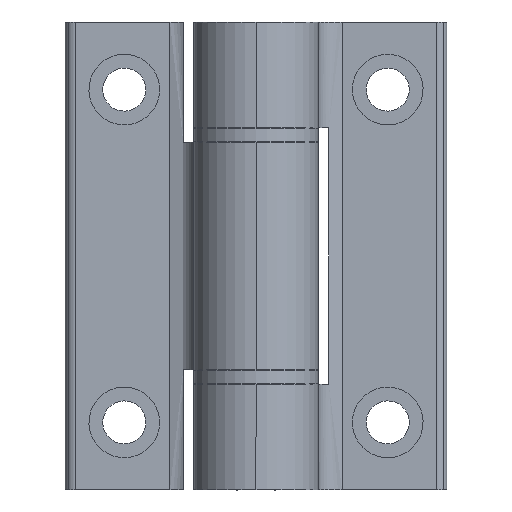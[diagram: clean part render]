
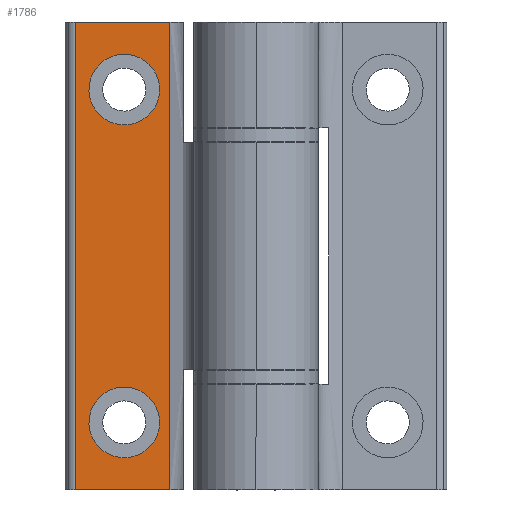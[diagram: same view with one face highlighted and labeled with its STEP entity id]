
A CAD part, front view. The second image highlights one B-rep face of the part: STEP entity #1786.
In plain terms, the highlighted planar face has unit normal (0, -1, 0).
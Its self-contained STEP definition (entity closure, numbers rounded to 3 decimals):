
#414=CARTESIAN_POINT('',(-11.248,4.75,-28.875));
#415=VERTEX_POINT('',#414);
#424=CARTESIAN_POINT('',(-4.65,4.75,-24.0));
#425=VERTEX_POINT('',#424);
#426=CARTESIAN_POINT('',(-9.75,4.75,-24.0));
#427=DIRECTION('',(0.0,1.0,0.0));
#428=DIRECTION('',(1.0,0.0,0.0));
#429=AXIS2_PLACEMENT_3D('',#426,#427,#428);
#430=CIRCLE('',#429,5.1);
#431=EDGE_CURVE('',#425,#415,#430,.T.);
#433=CARTESIAN_POINT('',(-8.252,4.75,-19.125));
#434=VERTEX_POINT('',#433);
#435=CARTESIAN_POINT('',(-9.75,4.75,-24.0));
#436=DIRECTION('',(0.0,1.0,0.0));
#437=DIRECTION('',(1.0,0.0,0.0));
#438=AXIS2_PLACEMENT_3D('',#435,#436,#437);
#439=CIRCLE('',#438,5.1);
#440=EDGE_CURVE('',#434,#425,#439,.T.);
#558=CARTESIAN_POINT('',(-11.248,4.75,19.125));
#559=VERTEX_POINT('',#558);
#568=CARTESIAN_POINT('',(-4.65,4.75,24.));
#569=VERTEX_POINT('',#568);
#570=CARTESIAN_POINT('',(-9.75,4.75,24.));
#571=DIRECTION('',(0.0,1.0,0.0));
#572=DIRECTION('',(1.0,0.0,0.0));
#573=AXIS2_PLACEMENT_3D('',#570,#571,#572);
#574=CIRCLE('',#573,5.1);
#575=EDGE_CURVE('',#569,#559,#574,.T.);
#577=CARTESIAN_POINT('',(-8.252,4.75,28.875));
#578=VERTEX_POINT('',#577);
#579=CARTESIAN_POINT('',(-9.75,4.75,24.));
#580=DIRECTION('',(0.0,1.0,0.0));
#581=DIRECTION('',(1.0,0.0,0.0));
#582=AXIS2_PLACEMENT_3D('',#579,#580,#581);
#583=CIRCLE('',#582,5.1);
#584=EDGE_CURVE('',#578,#569,#583,.T.);
#1181=CARTESIAN_POINT('',(-16.75,4.75,33.75));
#1182=VERTEX_POINT('',#1181);
#1190=CARTESIAN_POINT('',(-3.16,4.75,33.75));
#1191=VERTEX_POINT('',#1190);
#1192=CARTESIAN_POINT('',(-3.16,4.75,33.75));
#1193=DIRECTION('',(-1.0,0.0,0.0));
#1194=VECTOR('',#1193,13.59);
#1195=LINE('',#1192,#1194);
#1196=EDGE_CURVE('',#1191,#1182,#1195,.T.);
#1417=CARTESIAN_POINT('',(-3.16,4.75,-33.75));
#1418=VERTEX_POINT('',#1417);
#1426=CARTESIAN_POINT('',(-16.75,4.75,-33.75));
#1427=VERTEX_POINT('',#1426);
#1428=CARTESIAN_POINT('',(-16.75,4.75,-33.75));
#1429=DIRECTION('',(1.0,0.0,0.0));
#1430=VECTOR('',#1429,13.59);
#1431=LINE('',#1428,#1430);
#1432=EDGE_CURVE('',#1427,#1418,#1431,.T.);
#1517=CARTESIAN_POINT('',(-9.75,4.75,24.));
#1518=DIRECTION('',(0.0,1.0,0.0));
#1519=DIRECTION('',(1.0,0.0,0.0));
#1520=AXIS2_PLACEMENT_3D('',#1517,#1518,#1519);
#1521=CIRCLE('',#1520,5.1);
#1522=EDGE_CURVE('',#559,#578,#1521,.T.);
#1627=CARTESIAN_POINT('',(-9.75,4.75,-24.0));
#1628=DIRECTION('',(0.0,1.0,0.0));
#1629=DIRECTION('',(1.0,0.0,0.0));
#1630=AXIS2_PLACEMENT_3D('',#1627,#1628,#1629);
#1631=CIRCLE('',#1630,5.1);
#1632=EDGE_CURVE('',#415,#434,#1631,.T.);
#1750=CARTESIAN_POINT('',(-16.75,4.75,-33.75));
#1751=DIRECTION('',(0.0,0.0,1.0));
#1752=VECTOR('',#1751,67.5);
#1753=LINE('',#1750,#1752);
#1754=EDGE_CURVE('',#1427,#1182,#1753,.T.);
#1760=CARTESIAN_POINT('',(-18.25,4.75,33.75));
#1761=DIRECTION('',(0.0,-1.0,0.0));
#1762=DIRECTION('',(1.0,0.0,0.0));
#1763=AXIS2_PLACEMENT_3D('',#1760,#1761,#1762);
#1764=PLANE('',#1763);
#1765=ORIENTED_EDGE('',*,*,#1754,.F.);
#1766=ORIENTED_EDGE('',*,*,#1432,.T.);
#1767=CARTESIAN_POINT('',(-3.16,4.75,33.75));
#1768=DIRECTION('',(0.0,0.0,-1.0));
#1769=VECTOR('',#1768,67.5);
#1770=LINE('',#1767,#1769);
#1771=EDGE_CURVE('',#1191,#1418,#1770,.T.);
#1772=ORIENTED_EDGE('',*,*,#1771,.F.);
#1773=ORIENTED_EDGE('',*,*,#1196,.T.);
#1774=EDGE_LOOP('',(#1765,#1766,#1772,#1773));
#1775=FACE_OUTER_BOUND('',#1774,.T.);
#1776=ORIENTED_EDGE('',*,*,#575,.T.);
#1777=ORIENTED_EDGE('',*,*,#1522,.T.);
#1778=ORIENTED_EDGE('',*,*,#584,.T.);
#1779=EDGE_LOOP('',(#1776,#1777,#1778));
#1780=FACE_BOUND('',#1779,.T.);
#1781=ORIENTED_EDGE('',*,*,#431,.T.);
#1782=ORIENTED_EDGE('',*,*,#1632,.T.);
#1783=ORIENTED_EDGE('',*,*,#440,.T.);
#1784=EDGE_LOOP('',(#1781,#1782,#1783));
#1785=FACE_BOUND('',#1784,.T.);
#1786=ADVANCED_FACE('',(#1775,#1780,#1785),#1764,.T.);
